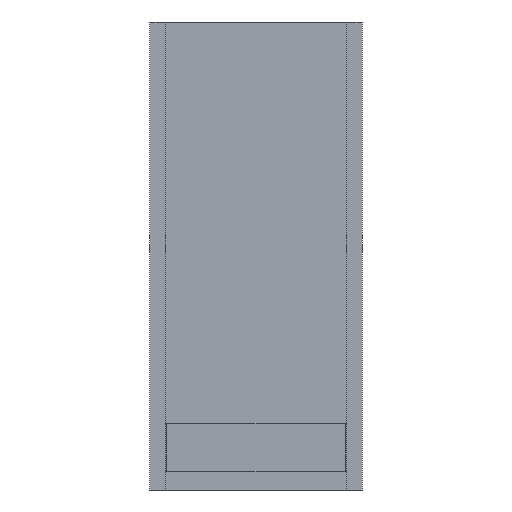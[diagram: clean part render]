
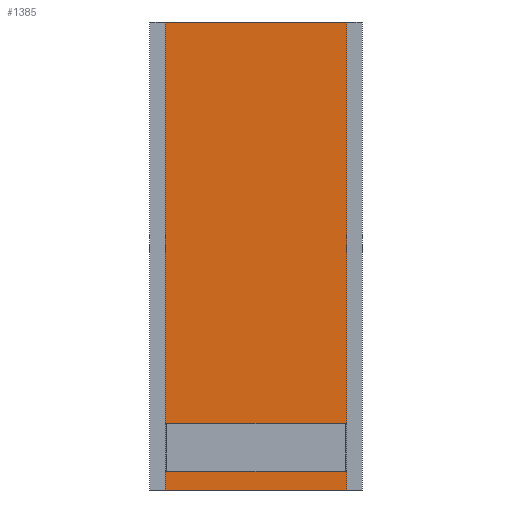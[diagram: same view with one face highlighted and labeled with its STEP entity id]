
A CAD part, front view. The second image highlights one B-rep face of the part: STEP entity #1385.
In plain terms, the highlighted planar face has unit normal (0, -1, 0).
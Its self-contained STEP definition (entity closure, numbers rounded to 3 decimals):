
#163 = CARTESIAN_POINT ( 'NONE',  ( 111., -57.525, 500. ) ) ;
#217 = CARTESIAN_POINT ( 'NONE',  ( -111., -57.525, 0. ) ) ;
#228 = AXIS2_PLACEMENT_3D ( 'NONE', #2217, #2086, #2109 ) ;
#284 = EDGE_CURVE ( 'NONE', #1914, #2006, #1376, .T. ) ;
#293 = EDGE_CURVE ( 'NONE', #2006, #1929, #1372, .T. ) ;
#296 = EDGE_CURVE ( 'NONE', #1986, #1929, #1370, .T. ) ;
#298 = EDGE_CURVE ( 'NONE', #1914, #1986, #1368, .T. ) ;
#885 = FACE_OUTER_BOUND ( 'NONE', #2966, .T. ) ;
#1367 = VECTOR ( 'NONE', #2401, 1000. ) ;
#1368 = LINE ( 'NONE', #2544, #1367 ) ;
#1369 = VECTOR ( 'NONE', #2402, 1000. ) ;
#1370 = LINE ( 'NONE', #2342, #1369 ) ;
#1371 = VECTOR ( 'NONE', #2406, 1000. ) ;
#1372 = LINE ( 'NONE', #2545, #1371 ) ;
#1375 = VECTOR ( 'NONE', #2410, 1000. ) ;
#1376 = LINE ( 'NONE', #2411, #1375 ) ;
#1385 = ADVANCED_FACE ( 'NONE', ( #885 ), #2180, .F. ) ;
#1676 = CARTESIAN_POINT ( 'NONE',  ( 111., -57.525, 0. ) ) ;
#1914 = VERTEX_POINT ( 'NONE', #2192 ) ;
#1929 = VERTEX_POINT ( 'NONE', #1676 ) ;
#1986 = VERTEX_POINT ( 'NONE', #163 ) ;
#2006 = VERTEX_POINT ( 'NONE', #217 ) ;
#2086 = DIRECTION ( 'NONE',  ( 0., 1., 0. ) ) ;
#2109 = DIRECTION ( 'NONE',  ( -1., 0., 0. ) ) ;
#2180 = PLANE ( 'NONE',  #228 ) ;
#2192 = CARTESIAN_POINT ( 'NONE',  ( -111., -57.525, 500. ) ) ;
#2217 = CARTESIAN_POINT ( 'NONE',  ( 111., -57.525, 500. ) ) ;
#2342 = CARTESIAN_POINT ( 'NONE',  ( 111., -57.525, 500. ) ) ;
#2401 = DIRECTION ( 'NONE',  ( 1., 0., 0. ) ) ;
#2402 = DIRECTION ( 'NONE',  ( 0., 0., -1. ) ) ;
#2406 = DIRECTION ( 'NONE',  ( 1., 0., 0. ) ) ;
#2410 = DIRECTION ( 'NONE',  ( 0., 0., -1. ) ) ;
#2411 = CARTESIAN_POINT ( 'NONE',  ( -111., -57.525, 500. ) ) ;
#2544 = CARTESIAN_POINT ( 'NONE',  ( 111., -57.525, 500. ) ) ;
#2545 = CARTESIAN_POINT ( 'NONE',  ( 111., -57.525, 0. ) ) ;
#2966 = EDGE_LOOP ( 'NONE', ( #3310, #3311, #3312, #3313 ) ) ;
#3310 = ORIENTED_EDGE ( 'NONE', *, *, #293, .T. ) ;
#3311 = ORIENTED_EDGE ( 'NONE', *, *, #296, .F. ) ;
#3312 = ORIENTED_EDGE ( 'NONE', *, *, #298, .F. ) ;
#3313 = ORIENTED_EDGE ( 'NONE', *, *, #284, .T. ) ;
